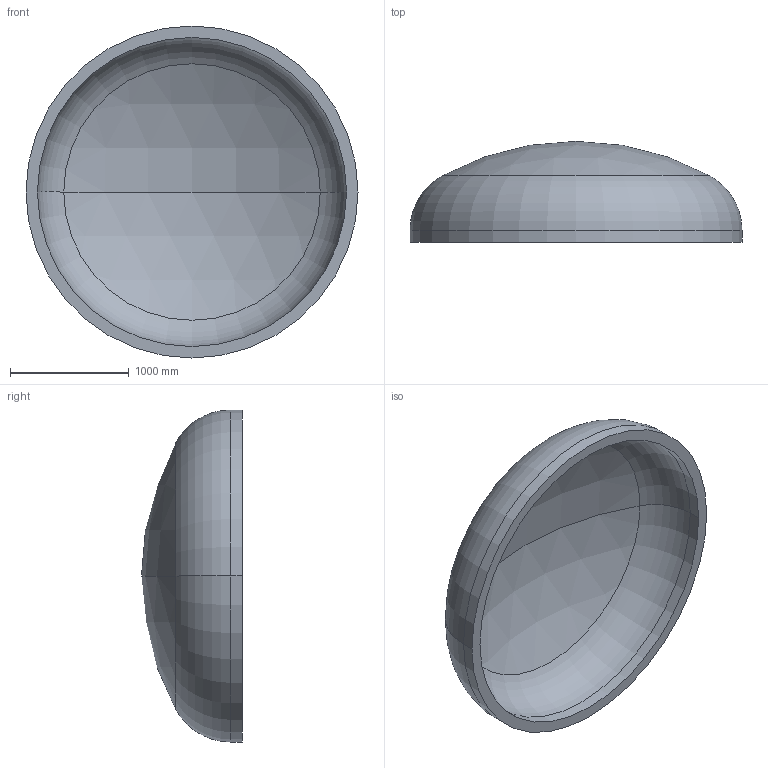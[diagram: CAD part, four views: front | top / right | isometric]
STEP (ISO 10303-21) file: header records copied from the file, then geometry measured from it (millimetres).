
FILE_DESCRIPTION (( 'STEP AP203' ), '1' );
FILE_NAME ('DIN 28013 Korbbogenform_-_Boden DIN 28013 - 2800 x 100 - I - s=96.step', '2016-07-01T17:16:47', ( '' ), ( '' ), 'SwSTEP 2.0', 'SolidWorks 2013', '' );
FILE_SCHEMA (( 'CONFIG_CONTROL_DESIGN' ));
Length unit declared in the file: millimetre
Products named in the file (1): DIN 28013 Korbbogenform_-_Boden DIN 28013 - 2800 x 100 - I - s=96
Bounding box: 2800 x 851 x 2800 mm (x, y, z)
Volume: 864068559.5 mm3; surface area: 18836231.8 mm2
Topology: 1 solids, 1 shells, 13 faces, 24 edges, 14 vertices
Faces by surface type: torus 4, cylinder 4, sphere 4, plane 1
Entity records: 407 total; most frequent: DIRECTION 72, CARTESIAN_POINT 52, ORIENTED_EDGE 48, AXIS2_PLACEMENT_3D 34, EDGE_CURVE 24, CIRCLE 20, EDGE_LOOP 14, VERTEX_POINT 14
